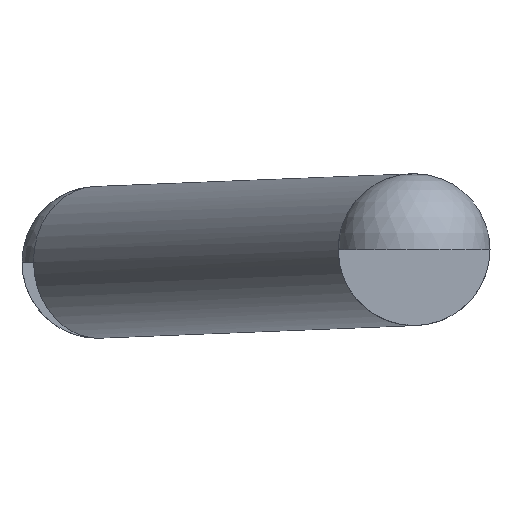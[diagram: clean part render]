
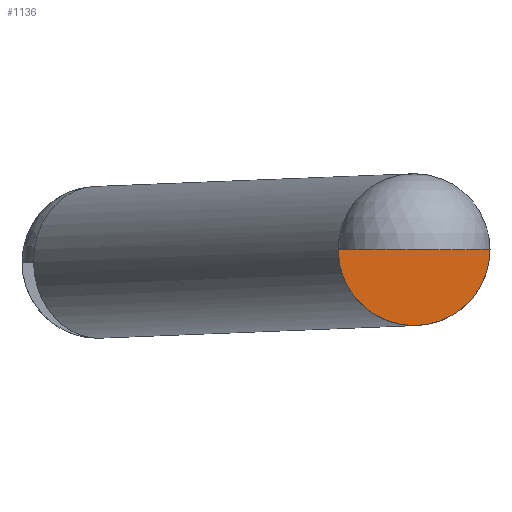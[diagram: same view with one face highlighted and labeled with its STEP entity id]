
A CAD part, left-side view. The second image highlights one B-rep face of the part: STEP entity #1136.
In plain terms, the highlighted planar face has unit normal (-1, 0, 0).
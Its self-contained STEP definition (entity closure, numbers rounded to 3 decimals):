
#21 = EDGE_CURVE('',#22,#24,#26,.T.);
#22 = VERTEX_POINT('',#23);
#23 = CARTESIAN_POINT('',(-15.5,58.4,21.5));
#24 = VERTEX_POINT('',#25);
#25 = CARTESIAN_POINT('',(-15.5,59.6,21.5));
#26 = SURFACE_CURVE('',#27,(#32,#44),.PCURVE_S1.);
#27 = CIRCLE('',#28,0.6);
#28 = AXIS2_PLACEMENT_3D('',#29,#30,#31);
#29 = CARTESIAN_POINT('',(-15.5,59.,21.5));
#30 = DIRECTION('',(1.,0.,0.));
#31 = DIRECTION('',(-0.,0.,1.));
#32 = PCURVE('',#33,#38);
#33 = CYLINDRICAL_SURFACE('',#34,0.6);
#34 = AXIS2_PLACEMENT_3D('',#35,#36,#37);
#35 = CARTESIAN_POINT('',(-15.5,59.,21.5));
#36 = DIRECTION('',(1.,0.,0.));
#37 = DIRECTION('',(-0.,0.,1.));
#38 = DEFINITIONAL_REPRESENTATION('',(#39),#43);
#39 = LINE('',#40,#41);
#40 = CARTESIAN_POINT('',(0.,0.));
#41 = VECTOR('',#42,1.);
#42 = DIRECTION('',(1.,0.));
#43 = ( GEOMETRIC_REPRESENTATION_CONTEXT(2) 
PARAMETRIC_REPRESENTATION_CONTEXT() REPRESENTATION_CONTEXT('2D SPACE',''
  ) );
#44 = PCURVE('',#45,#50);
#45 = PLANE('',#46);
#46 = AXIS2_PLACEMENT_3D('',#47,#48,#49);
#47 = CARTESIAN_POINT('',(-15.5,59.,21.5));
#48 = DIRECTION('',(1.,0.,0.));
#49 = DIRECTION('',(-0.,0.,1.));
#50 = DEFINITIONAL_REPRESENTATION('',(#51),#55);
#51 = CIRCLE('',#52,0.6);
#52 = AXIS2_PLACEMENT_2D('',#53,#54);
#53 = CARTESIAN_POINT('',(0.,0.));
#54 = DIRECTION('',(1.,0.));
#55 = ( GEOMETRIC_REPRESENTATION_CONTEXT(2) 
PARAMETRIC_REPRESENTATION_CONTEXT() REPRESENTATION_CONTEXT('2D SPACE',''
  ) );
#1102 = PLANE('',#1103);
#1103 = AXIS2_PLACEMENT_3D('',#1104,#1105,#1106);
#1104 = CARTESIAN_POINT('',(-15.5,59.,21.5));
#1105 = DIRECTION('',(0.,0.,1.));
#1106 = DIRECTION('',(1.,0.,-0.));
#1117 = EDGE_CURVE('',#24,#22,#1118,.T.);
#1118 = SURFACE_CURVE('',#1119,(#1123,#1129),.PCURVE_S1.);
#1119 = LINE('',#1120,#1121);
#1120 = CARTESIAN_POINT('',(-15.5,59.,21.5));
#1121 = VECTOR('',#1122,1.);
#1122 = DIRECTION('',(0.,-1.,0.));
#1123 = PCURVE('',#1102,#1124);
#1124 = DEFINITIONAL_REPRESENTATION('',(#1125),#1128);
#1125 = B_SPLINE_CURVE_WITH_KNOTS('',1,(#1126,#1127),.UNSPECIFIED.,.F.,
  .F.,(2,2),(-0.6,0.6),.PIECEWISE_BEZIER_KNOTS.);
#1126 = CARTESIAN_POINT('',(0.,0.6));
#1127 = CARTESIAN_POINT('',(0.,-0.6));
#1128 = ( GEOMETRIC_REPRESENTATION_CONTEXT(2) 
PARAMETRIC_REPRESENTATION_CONTEXT() REPRESENTATION_CONTEXT('2D SPACE',''
  ) );
#1129 = PCURVE('',#45,#1130);
#1130 = DEFINITIONAL_REPRESENTATION('',(#1131),#1134);
#1131 = B_SPLINE_CURVE_WITH_KNOTS('',1,(#1132,#1133),.UNSPECIFIED.,.F.,
  .F.,(2,2),(-0.6,0.6),.PIECEWISE_BEZIER_KNOTS.);
#1132 = CARTESIAN_POINT('',(0.,-0.6));
#1133 = CARTESIAN_POINT('',(0.,0.6));
#1134 = ( GEOMETRIC_REPRESENTATION_CONTEXT(2) 
PARAMETRIC_REPRESENTATION_CONTEXT() REPRESENTATION_CONTEXT('2D SPACE',''
  ) );
#1136 = ADVANCED_FACE('',(#1137),#45,.F.);
#1137 = FACE_BOUND('',#1138,.F.);
#1138 = EDGE_LOOP('',(#1139,#1140));
#1139 = ORIENTED_EDGE('',*,*,#1117,.T.);
#1140 = ORIENTED_EDGE('',*,*,#21,.T.);
